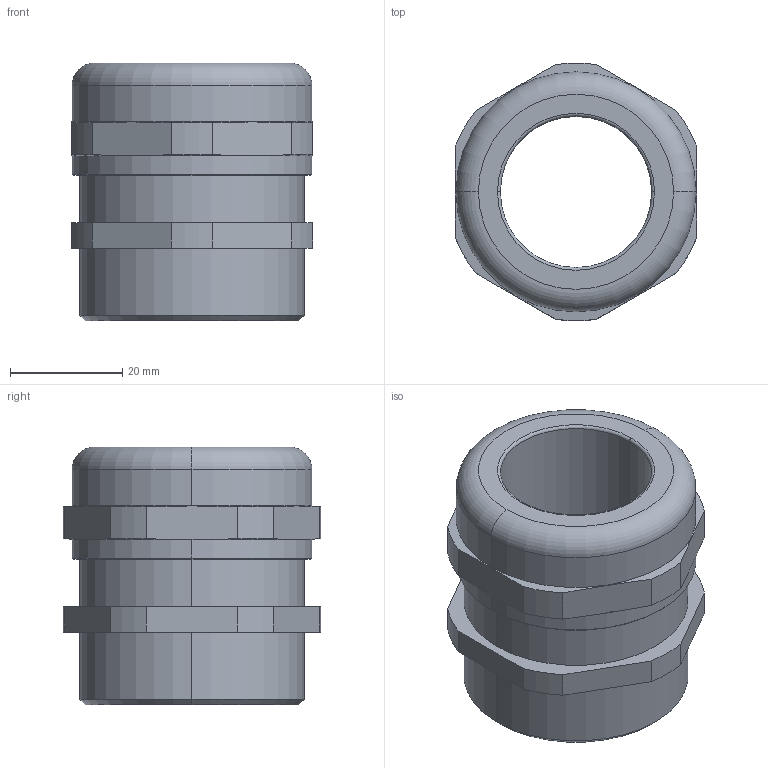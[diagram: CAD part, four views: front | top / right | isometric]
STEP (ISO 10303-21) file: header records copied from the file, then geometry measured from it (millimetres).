
FILE_DESCRIPTION (( 'STEP AP203' ), '1' );
FILE_NAME ('50.640 M-L.STEP', '2005-10-05T07:00:34', ( ' ' ), ( '' ), 'SwSTEP 2.0', 'SolidWorks 2005143', '' );
FILE_SCHEMA (( 'CONFIG_CONTROL_DESIGN' ));
Length unit declared in the file: millimetre
Products named in the file (1): 50.640 M-L
Bounding box: 43 x 45.93 x 46 mm (x, y, z)
Volume: 36709.5 mm3; surface area: 12209.8 mm2
Topology: 1 solids, 1 shells, 88 faces, 228 edges, 148 vertices
Faces by surface type: plane 54, cylinder 22, cone 8, torus 4
Entity records: 2777 total; most frequent: CARTESIAN_POINT 521, ORIENTED_EDGE 456, DIRECTION 446, EDGE_CURVE 228, LINE 156, VECTOR 156, VERTEX_POINT 148, AXIS2_PLACEMENT_3D 145
